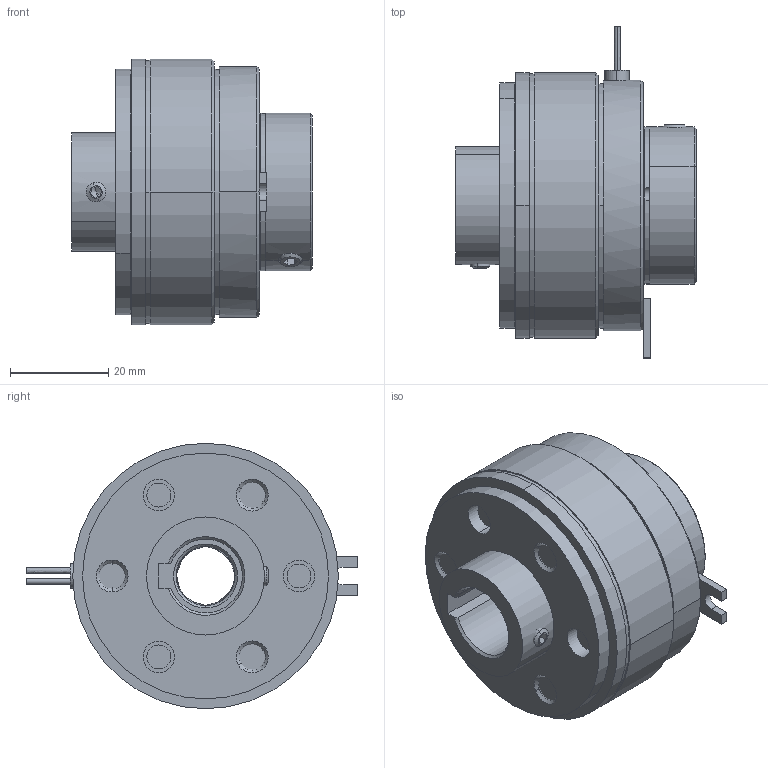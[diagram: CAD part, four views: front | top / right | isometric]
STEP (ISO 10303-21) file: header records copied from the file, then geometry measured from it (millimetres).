
FILE_DESCRIPTION((''),'2;1');
FILE_NAME('G:\Konstruktion\Datenkonvertierung\step\14.100.05.301.stp','2004-02-16T09:17:20',('Schöttelndreier'),(''),'Autodesk Inventor 8','Autodesk Inventor 8','');
FILE_SCHEMA(('AUTOMOTIVE_DESIGN { 1 0 10303 214 1 1 1 1 }'));
Length unit declared in the file: millimetre
Products named in the file (24): 14.100.05.301; 14.100.05.996-001 dxf; 14.100.05.992-300 dxf; 14.100.05.992-154 dxf; Spritzmasse; Reibbelag_05 dxf; 14.100.05.995-001 dxf; Lager; 14.100.05.994-105 dxf; 14.100.05.999-001 dxf; 14.102.02-18.202 dxf; Spule_05 dxf; 14.100.05.991-300; 14.100.05.991-251; DIN 916  (Regelgewinde) M5  x  10; 14.100.05.001-001; 14.100.05.003-001; 14.100.05.993-001; 14.102.05-53.002; Niet1; 14.100.05.993-200; Niet2; DIN 916  (Regelgewinde) M4  x  5
Assembly tree (29 placements, depth 4):
  14.100.05.301
    14.100.05.996-001 dxf
      14.100.05.992-300 dxf
      14.100.05.992-154 dxf
      Spritzmasse
      Reibbelag_05 dxf
    14.100.05.995-001 dxf
      Lager
      14.100.05.994-105 dxf
      14.100.05.999-001 dxf
        14.100.05.999-001 dxf
        14.102.02-18.202 dxf
      Spule_05 dxf
    14.100.05.991-300  x2
    14.100.05.991-251
    DIN 916  (Regelgewinde) M5  x  10  x2
    14.100.05.001-001
      14.100.05.003-001
        14.100.05.993-001
        14.102.05-53.002
        Niet1  x3
      14.100.05.993-200
      Niet2  x3
      DIN 916  (Regelgewinde) M4  x  5
Bounding box: 49 x 67.5 x 54 mm (x, y, z)
Volume: 63518.7 mm3; surface area: 53862 mm2
Topology: 24 solids, 24 shells, 375 faces, 846 edges, 526 vertices
Faces by surface type: cylinder 165, plane 120, cone 77, bspline 11, torus 2
Entity records: 10230 total; most frequent: CARTESIAN_POINT 2267, DIRECTION 1704, ORIENTED_EDGE 1416, EDGE_CURVE 708, AXIS2_PLACEMENT_3D 699, VERTEX_POINT 450, EDGE_LOOP 394, CIRCLE 349
